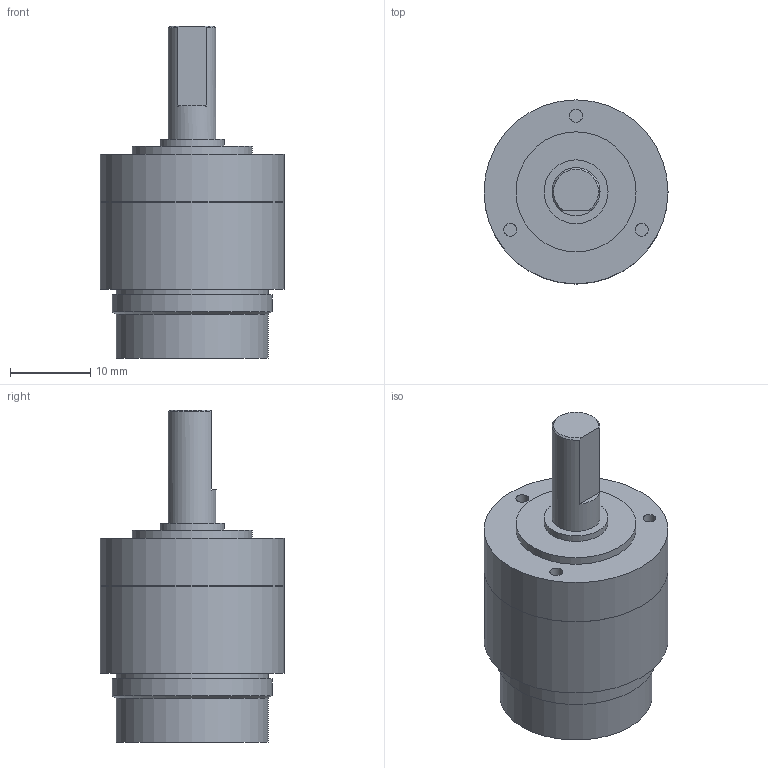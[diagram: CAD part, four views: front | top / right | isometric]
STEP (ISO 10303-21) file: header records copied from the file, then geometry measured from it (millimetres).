
FILE_DESCRIPTION(/* description */ (''),/* implementation_level */ '2;1');
FILE_NAME(/* name */ '23-1_2.stp',/* time_stamp */ '2016-09-06T15:02:17+02:00',/* author */ ('DR. FRITZ FAULHABER GmbH & Co. KG'),/* organization */ ('DR. FRITZ FAULHABER GmbH & Co. KG'),/* preprocessor_version */ 'ST-DEVELOPER v16',/* originating_system */ 'SIEMENS PLM Software NX 10.0',/* authorisation */ '');
FILE_SCHEMA (('AUTOMOTIVE_DESIGN { 1 0 10303 214 3 1 1 1 }'));
Length unit declared in the file: millimetre
Products named in the file (1): H00000160_A
Bounding box: 23 x 23 x 41.5 mm (x, y, z)
Volume: 9830.8 mm3; surface area: 3135.1 mm2
Topology: 1 solids, 1 shells, 34 faces, 72 edges, 59 vertices
Faces by surface type: plane 17, cylinder 15, cone 2
Full cylindrical faces by diameter (mm): 1.6 x3, 6 x1, 8 x1, 8.76 x1, 8.96 x1, 13.78 x1, 15 x1, 19 x2, 20 x1, 22.99 x1, 23 x2
Entity records: 889 total; most frequent: DIRECTION 165, CARTESIAN_POINT 131, AXIS2_PLACEMENT_3D 78, ORIENTED_EDGE 76, EDGE_LOOP 63, FACE_BOUND 55, CIRCLE 43, EDGE_CURVE 38
